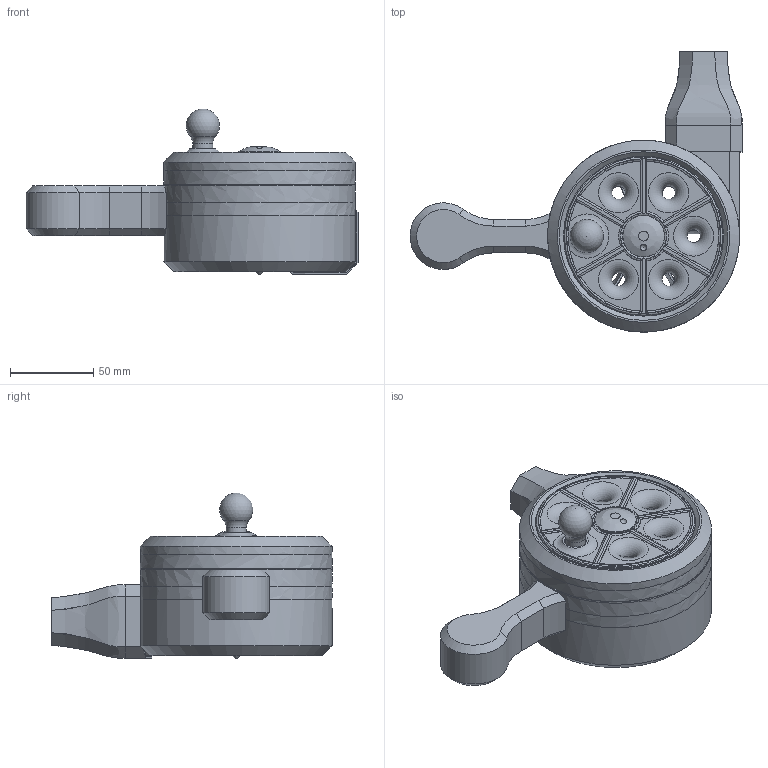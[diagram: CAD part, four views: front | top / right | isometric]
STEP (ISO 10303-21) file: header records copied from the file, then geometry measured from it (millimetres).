
FILE_DESCRIPTION(/* description */ (''),/* implementation_level */ '2;1');
FILE_NAME(/* name */ 'Blower2025_x36 v12.step',/* time_stamp */ '2025-09-01T16:17:41+02:00',/* author */ (''),/* organization */ (''),/* preprocessor_version */ 'ST-DEVELOPER v20.1',/* originating_system */ 'Autodesk Translation Framework v14.10.0.0',/* authorisation */ '');
FILE_SCHEMA (('AUTOMOTIVE_DESIGN { 1 0 10303 214 3 1 1 }'));
Length unit declared in the file: millimetre
Products named in the file (12): Blower2025_x36; second_gear; krank; rotor; nozzle; corejoint ; handle; spacer; cover; blades; joinergroup1; joinergroup2
Assembly tree (11 placements, depth 2):
  Blower2025_x36
    second_gear
    krank
    rotor
    nozzle
    corejoint 
    handle
    spacer
    cover
    blades
    joinergroup1
    joinergroup2
Bounding box: 199 x 168 x 99.5 mm (x, y, z)
Volume: 476693.4 mm3; surface area: 265657.5 mm2
Topology: 41 solids, 41 shells, 4545 faces, 11736 edges, 7313 vertices
Faces by surface type: bspline 2652, plane 1447, cylinder 218, cone 164, torus 62, sphere 2
Full cylindrical faces by diameter (mm): 4.5 x1, 8 x11, 12 x3, 12.9 x3, 14 x6, 14.9 x6, 20 x12, 20.9 x12, 22 x1, 22.9 x1, 24 x1, 90 x1, 96 x2, 99.1 x1
Entity records: 228079 total; most frequent: CARTESIAN_POINT 137785, ORIENTED_EDGE 23468, EDGE_CURVE 11734, DIRECTION 10240, VERTEX_POINT 7313, B_SPLINE_CURVE_WITH_KNOTS 6589, EDGE_LOOP 4675, FACE_OUTER_BOUND 4545
